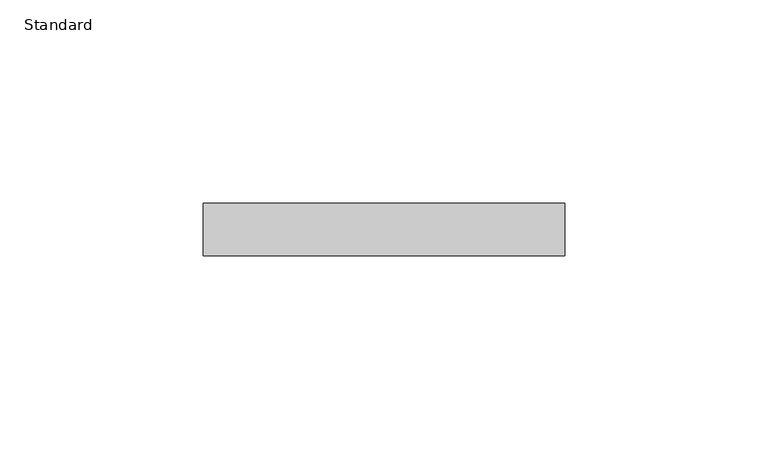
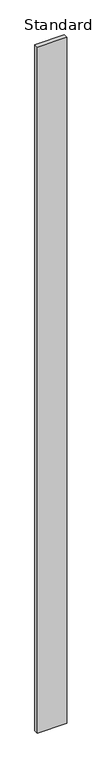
"""IFC4 building model written with IfcOpenShell, lengths in millimetres: furniture geometry, X_Partition-Compact Laminate-Duracube-Rectangular : Standard."""

from ifc_helpers import new_model, si_unit, frame, origin, place, context, project, spatial, polyline, outline, extrude, source, transform, mapped, element, save


def standard_652f884a(model_context):
    return source(origin(), model_context, "Body", "SweptSolid", [
        extrude(outline(polyline([(89.2003264, 0.0), (89.2003264, -13.0), (0.2003264, -13.0), (0.2003264, 0.0), (89.2003264, 0.0)])), frame((0.0, 0.0, 200.0), z_axis=(0.0, 0.0, 1.0), x_axis=(1.0, 0.0, 0.0)), (0.0, 0.0, 1.0), 2198.0),
    ])


if __name__ == "__main__":
    model = new_model("IFC4")
    model_context = context("Model", 3, world=origin())
    ifc_project = project(units=[si_unit("LENGTHUNIT", "METRE", prefix="MILLI")], contexts=[model_context])
    site = spatial("IfcSite", under=ifc_project)
    building = spatial("IfcBuilding", under=site)
    placement = place(None, origin())
    standard_shape = standard_652f884a(model_context)
    element("IfcFurniture", 1, ObjectType="X_Partition-Compact Laminate-Duracube-Rectangular : Standard", at=placement, inside=building, context=model_context, shape_type="MappedRepresentation", body=[
        mapped(standard_shape, transform((0.0, 0.0, 0.0), x_axis=(1.0, 0.0, 0.0), y_axis=(0.0, 1.0, 0.0), z_axis=(0.0, 0.0, 1.0))),
    ])
    save(model, "model.ifc")
